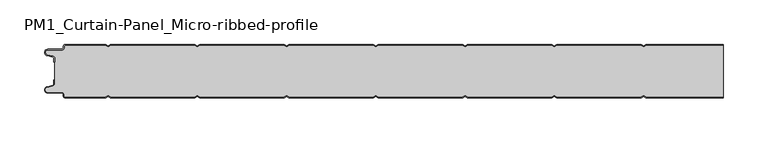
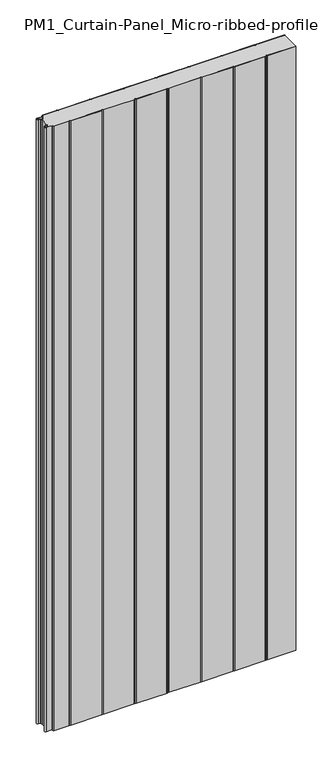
"""IFC4 building model written with IfcOpenShell, lengths in millimetres: plate geometry, PM1_Curtain-Panel_Micro-ribbed-profile : ACH_PM1_Stone-wool-Panel_60M."""

from ifc_helpers import new_model, si_unit, point, frame_2d, origin, origin_with_axes, place, context, project, spatial, polyline, circle_curve, trimmed, segment, composite_curve, outline, extrude, source, transform, mapped, element, save


def pm1_curtain_panel_micro_ribbed_profile_cd397411(model_context):
    return source(origin(), model_context, "Body", "SweptSolid", [
        extrude(outline(composite_curve([segment(trimmed(circle_curve(frame_2d((-377.0119739, -15.878557)), 2.0), [point((-375.0119739, -15.878557))], [point((-376.5620718, -13.9298169))], True, "CARTESIAN"), True, "CONTINUOUS"), segment(polyline([(-376.5620718, -13.9298169), (-382.7217978, -12.507732)]), True, "CONTINUOUS"), segment(trimmed(circle_curve(frame_2d((-381.9119739, -9.0)), 3.6), [point((-382.7217978, -12.507732))], [point((-381.9119739, -5.4))], False, "CARTESIAN"), True, "CONTINUOUS"), segment(polyline([(-381.9119739, -5.4), (-366.4119739, -5.4)]), True, "CONTINUOUS"), segment(trimmed(circle_curve(frame_2d((-366.4119739, -3.4)), 2.0), [point((-366.4119739, -5.4))], [point((-364.4119739, -3.4))], True, "CARTESIAN"), True, "CONTINUOUS"), segment(polyline([(-364.4119739, -3.4), (-364.4119739, -2.0)]), True, "CONTINUOUS"), segment(trimmed(circle_curve(frame_2d((-362.4119739, -2.0)), 2.0), [point((-364.4119739, -2.0))], [point((-362.4119739, 0.0))], False, "CARTESIAN"), True, "CONTINUOUS"), segment(polyline([(-362.4119739, 0.0), (-317.1119734, 0.0), (-314.4119739, -1.5588455), (-311.7119745, 0.0), (-217.1119734, 0.0), (-214.4119739, -1.5588455), (-211.7119745, 0.0), (-117.1119734, 0.0), (-114.4119739, -1.5588455), (-111.7119745, 0.0), (-17.1119734, 0.0), (-14.4119739, -1.5588455), (-11.7119745, 0.0), (82.8880266, 0.0), (85.5880261, -1.5588455), (88.2880255, 0.0), (182.8880266, 0.0), (185.5880261, -1.5588455), (188.2880255, 0.0), (282.8880266, 0.0), (285.5880261, -1.5588455), (288.2880255, 0.0), (375.0119739, 0.0), (375.0119739, -0.8), (288.5023849, -0.8), (285.5880261, -2.482606), (282.6736672, -0.8), (188.5023849, -0.8), (185.5880261, -2.482606), (182.6736672, -0.8), (88.5023849, -0.8), (85.5880261, -2.482606), (82.6736672, -0.8), (-11.4976151, -0.8), (-14.4119739, -2.482606), (-17.3263328, -0.8), (-111.4976151, -0.8), (-114.4119739, -2.482606), (-117.3263328, -0.8), (-211.4976151, -0.8), (-214.4119739, -2.482606), (-217.3263328, -0.8), (-311.4976151, -0.8), (-314.4119739, -2.482606), (-317.3263328, -0.8), (-362.4119739, -0.8)]), True, "CONTINUOUS"), segment(trimmed(circle_curve(frame_2d((-362.4119739, -2.0)), 1.2), [point((-362.4119739, -0.8))], [point((-363.6119739, -2.0))], True, "CARTESIAN"), True, "CONTINUOUS"), segment(polyline([(-363.6119739, -2.0), (-363.6119739, -3.4)]), True, "CONTINUOUS"), segment(trimmed(circle_curve(frame_2d((-366.4119739, -3.4)), 2.8), [point((-363.6119739, -3.4))], [point((-366.4119739, -6.2))], False, "CARTESIAN"), True, "CONTINUOUS"), segment(polyline([(-366.4119739, -6.2), (-381.9119739, -6.2)]), True, "CONTINUOUS"), segment(trimmed(circle_curve(frame_2d((-381.9119739, -9.0)), 2.8), [point((-381.9119739, -6.2))], [point((-382.541837, -11.7282362))], True, "CARTESIAN"), True, "CONTINUOUS"), segment(polyline([(-382.541837, -11.7282362), (-376.3821109, -13.150321)]), True, "CONTINUOUS"), segment(trimmed(circle_curve(frame_2d((-377.0119739, -15.878557)), 2.8), [point((-376.3821109, -13.150321))], [point((-374.2119739, -15.878557))], False, "CARTESIAN"), True, "CONTINUOUS"), segment(polyline([(-374.2119739, -15.878557), (-374.2119739, -20.0), (-375.0119739, -20.0), (-375.0119739, -15.878557)]), True, "CONTINUOUS")], self_intersect=False)), origin_with_axes(), (0.0, 0.0, 1.0), 1945.7507136),
        extrude(outline(composite_curve([segment(polyline([(-374.2119739, -44.1214426), (-374.2119739, -15.8785573)]), True, "CONTINUOUS"), segment(trimmed(circle_curve(frame_2d((-377.0119739, -15.8785573)), 2.8), [point((-374.2119739, -15.8785573))], [point((-376.3821109, -13.1503212))], True, "CARTESIAN"), True, "CONTINUOUS"), segment(polyline([(-376.3821109, -13.1503212), (-382.541837, -11.7282362)]), True, "CONTINUOUS"), segment(trimmed(circle_curve(frame_2d((-381.911974, -9.0)), 2.8), [point((-382.541837, -11.7282362))], [point((-381.911974, -6.2))], False, "CARTESIAN"), True, "CONTINUOUS"), segment(polyline([(-381.911974, -6.2), (-366.411974, -6.2)]), True, "CONTINUOUS"), segment(trimmed(circle_curve(frame_2d((-366.411974, -3.4)), 2.8), [point((-366.411974, -6.2))], [point((-363.611974, -3.4))], True, "CARTESIAN"), True, "CONTINUOUS"), segment(polyline([(-363.611974, -3.4), (-363.611974, -2.0)]), True, "CONTINUOUS"), segment(trimmed(circle_curve(frame_2d((-362.411974, -2.0)), 1.2), [point((-363.611974, -2.0))], [point((-362.411974, -0.8))], False, "CARTESIAN"), True, "CONTINUOUS"), segment(polyline([(-362.411974, -0.8), (-317.3263329, -0.8), (-314.411974, -2.482606), (-311.4976152, -0.8), (-217.3263329, -0.8), (-214.411974, -2.482606), (-211.4976152, -0.8), (-117.3263329, -0.8), (-114.411974, -2.482606), (-111.4976152, -0.8), (-17.3263329, -0.8), (-14.411974, -2.482606), (-11.4976152, -0.8), (82.6736671, -0.8), (85.588026, -2.482606), (88.5023848, -0.8), (182.6736671, -0.8), (185.588026, -2.482606), (188.5023848, -0.8), (282.6736671, -0.8), (285.588026, -2.482606), (288.5023848, -0.8), (375.0119739, -0.8), (375.0119739, -59.2), (288.5023848, -59.2), (285.588026, -57.517394), (282.6736671, -59.2), (188.5023848, -59.2), (185.588026, -57.517394), (182.6736671, -59.2), (88.5023848, -59.2), (85.588026, -57.517394), (82.6736671, -59.2), (-11.4976152, -59.2), (-14.411974, -57.517394), (-17.3263329, -59.2), (-111.4976152, -59.2), (-114.411974, -57.517394), (-117.3263329, -59.2), (-211.4976152, -59.2), (-214.411974, -57.517394), (-217.3263329, -59.2), (-311.4976152, -59.2), (-314.411974, -57.517394), (-317.3263329, -59.2), (-362.411974, -59.2)]), True, "CONTINUOUS"), segment(trimmed(circle_curve(frame_2d((-362.411974, -58.0)), 1.2), [point((-362.411974, -59.2))], [point((-363.611974, -58.0))], False, "CARTESIAN"), True, "CONTINUOUS"), segment(polyline([(-363.611974, -58.0), (-363.611974, -56.6)]), True, "CONTINUOUS"), segment(trimmed(circle_curve(frame_2d((-366.411974, -56.6)), 2.8), [point((-363.611974, -56.6))], [point((-366.411974, -53.8))], True, "CARTESIAN"), True, "CONTINUOUS"), segment(polyline([(-366.411974, -53.8), (-381.911974, -53.8)]), True, "CONTINUOUS"), segment(trimmed(circle_curve(frame_2d((-381.911974, -51.0)), 2.8), [point((-381.911974, -53.8))], [point((-382.541837, -48.2717638))], False, "CARTESIAN"), True, "CONTINUOUS"), segment(polyline([(-382.541837, -48.2717638), (-376.3821109, -46.8496788)]), True, "CONTINUOUS"), segment(trimmed(circle_curve(frame_2d((-377.0119739, -44.1214426)), 2.8), [point((-376.3821109, -46.8496788))], [point((-374.2119739, -44.1214426))], True, "CARTESIAN"), True, "CONTINUOUS")], self_intersect=False)), origin_with_axes(), (0.0, 0.0, 1.0), 1945.7507136),
        extrude(outline(composite_curve([segment(polyline([(-375.0119739, -44.121443), (-375.0119739, -40.0), (-374.2119739, -40.0), (-374.2119739, -44.121443)]), True, "CONTINUOUS"), segment(trimmed(circle_curve(frame_2d((-377.0119739, -44.121443)), 2.8), [point((-374.2119739, -44.121443))], [point((-376.3821109, -46.8496792))], False, "CARTESIAN"), True, "CONTINUOUS"), segment(polyline([(-376.3821109, -46.8496792), (-382.5418369, -48.271764)]), True, "CONTINUOUS"), segment(trimmed(circle_curve(frame_2d((-381.9119739, -51.0)), 2.8), [point((-382.5418369, -48.271764))], [point((-381.9119739, -53.8))], True, "CARTESIAN"), True, "CONTINUOUS"), segment(polyline([(-381.9119739, -53.8), (-366.4119739, -53.8)]), True, "CONTINUOUS"), segment(trimmed(circle_curve(frame_2d((-366.4119739, -56.6)), 2.8), [point((-366.4119739, -53.8))], [point((-363.6119739, -56.6))], False, "CARTESIAN"), True, "CONTINUOUS"), segment(polyline([(-363.6119739, -56.6), (-363.6119739, -58.0)]), True, "CONTINUOUS"), segment(trimmed(circle_curve(frame_2d((-362.4119739, -58.0)), 1.2), [point((-363.6119739, -58.0))], [point((-362.4119739, -59.2))], True, "CARTESIAN"), True, "CONTINUOUS"), segment(polyline([(-362.4119739, -59.2), (-317.3263328, -59.2), (-314.4119739, -57.517394), (-311.4976151, -59.2), (-217.3263328, -59.2), (-214.4119739, -57.517394), (-211.4976151, -59.2), (-117.3263328, -59.2), (-114.4119739, -57.517394), (-111.4976151, -59.2), (-17.3263328, -59.2), (-14.4119739, -57.517394), (-11.4976151, -59.2), (82.6736672, -59.2), (85.5880261, -57.517394), (88.5023849, -59.2), (182.6736672, -59.2), (185.5880261, -57.517394), (188.5023849, -59.2), (282.6736672, -59.2), (285.5880261, -57.517394), (288.5023849, -59.2), (375.0119739, -59.2), (375.0119739, -60.0), (288.2880255, -60.0), (285.5880261, -58.4411545), (282.8880266, -60.0), (188.2880255, -60.0), (185.5880261, -58.4411545), (182.8880266, -60.0), (88.2880255, -60.0), (85.5880261, -58.4411545), (82.8880266, -60.0), (-11.7119745, -60.0), (-14.4119739, -58.4411545), (-17.1119734, -60.0), (-111.7119745, -60.0), (-114.4119739, -58.4411545), (-117.1119734, -60.0), (-211.7119745, -60.0), (-214.4119739, -58.4411545), (-217.1119734, -60.0), (-311.7119745, -60.0), (-314.4119739, -58.4411545), (-317.1119734, -60.0), (-362.4119739, -60.0)]), True, "CONTINUOUS"), segment(trimmed(circle_curve(frame_2d((-362.4119739, -58.0)), 2.0), [point((-362.4119739, -60.0))], [point((-364.4119739, -58.0))], False, "CARTESIAN"), True, "CONTINUOUS"), segment(polyline([(-364.4119739, -58.0), (-364.4119739, -56.6)]), True, "CONTINUOUS"), segment(trimmed(circle_curve(frame_2d((-366.4119739, -56.6)), 2.0), [point((-364.4119739, -56.6))], [point((-366.4119739, -54.6))], True, "CARTESIAN"), True, "CONTINUOUS"), segment(polyline([(-366.4119739, -54.6), (-381.9119739, -54.6)]), True, "CONTINUOUS"), segment(trimmed(circle_curve(frame_2d((-381.9119739, -51.0)), 3.6), [point((-381.9119739, -54.6))], [point((-382.7217979, -47.4922678))], False, "CARTESIAN"), True, "CONTINUOUS"), segment(polyline([(-382.7217979, -47.4922678), (-376.5620718, -46.070183)]), True, "CONTINUOUS"), segment(trimmed(circle_curve(frame_2d((-377.0119739, -44.121443)), 2.0), [point((-376.5620718, -46.070183))], [point((-375.0119739, -44.121443))], True, "CARTESIAN"), True, "CONTINUOUS")], self_intersect=False)), origin_with_axes(), (0.0, 0.0, 1.0), 1945.7507136),
    ])


if __name__ == "__main__":
    model = new_model("IFC4")
    model_context = context("Model", 3, world=origin())
    ifc_project = project(units=[si_unit("LENGTHUNIT", "METRE", prefix="MILLI")], contexts=[model_context])
    site = spatial("IfcSite", under=ifc_project)
    building = spatial("IfcBuilding", under=site)
    placement = place(None, origin())
    pm1_curtain_panel_micro_ribbed_profile_shape = pm1_curtain_panel_micro_ribbed_profile_cd397411(model_context)
    element("IfcPlate", 1, ObjectType="PM1_Curtain-Panel_Micro-ribbed-profile : ACH_PM1_Stone-wool-Panel_60M", at=placement, inside=building, context=model_context, shape_type="MappedRepresentation", body=[
        mapped(pm1_curtain_panel_micro_ribbed_profile_shape, transform((0.0, 0.0, 0.0), x_axis=(1.0, 0.0, 0.0), y_axis=(0.0, 1.0, 0.0), z_axis=(0.0, 0.0, 1.0))),
    ])
    save(model, "model.ifc")
